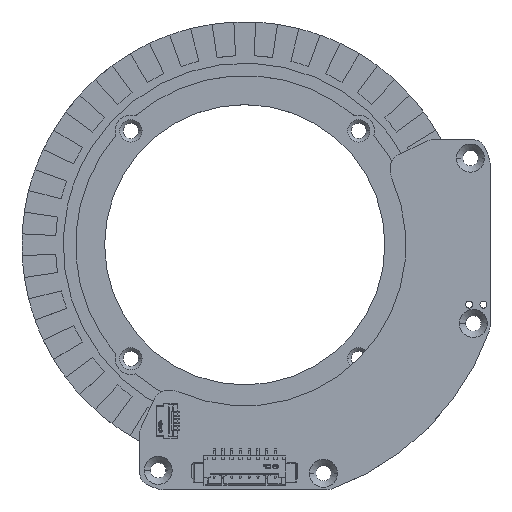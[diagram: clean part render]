
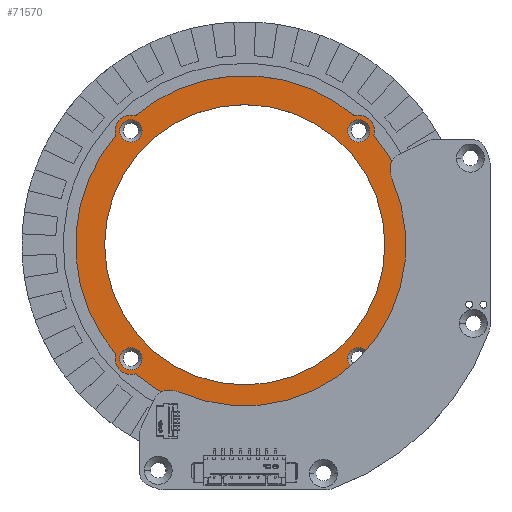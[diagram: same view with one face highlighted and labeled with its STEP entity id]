
A CAD part, top view. The second image highlights one B-rep face of the part: STEP entity #71570.
In plain terms, the highlighted planar face has unit normal (0, 0, 1) as drawn and (0, 1, 0) by its records, which use the part's own axes.
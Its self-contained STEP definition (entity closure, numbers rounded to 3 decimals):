
#67730=CARTESIAN_POINT('',(-16.263,1.2,-16.263));
#67731=DIRECTION('',(0.,1.,0.));
#67732=DIRECTION('',(1.,0.,0.));
#67733=AXIS2_PLACEMENT_3D('',#67730,#67731,#67732);
#67738=CARTESIAN_POINT('',(-16.263,1.2,-16.263));
#67739=DIRECTION('',(0.,1.,0.));
#67740=DIRECTION('',(-1.,0.,0.));
#67741=AXIS2_PLACEMENT_3D('',#67738,#67739,#67740);
#67746=CARTESIAN_POINT('',(16.263,1.2,-16.263));
#67747=DIRECTION('',(0.,1.,0.));
#67748=DIRECTION('',(-1.,0.,0.));
#67749=AXIS2_PLACEMENT_3D('',#67746,#67747,#67748);
#67754=CARTESIAN_POINT('',(16.263,1.2,-16.263));
#67755=DIRECTION('',(0.,1.,0.));
#67756=DIRECTION('',(1.,0.,0.));
#67757=AXIS2_PLACEMENT_3D('',#67754,#67755,#67756);
#67762=CARTESIAN_POINT('',(16.263,1.2,16.263));
#67763=DIRECTION('',(0.,1.,0.));
#67764=DIRECTION('',(-1.,0.,0.));
#67765=AXIS2_PLACEMENT_3D('',#67762,#67763,#67764);
#67770=CARTESIAN_POINT('',(16.263,1.2,16.263));
#67771=DIRECTION('',(0.,1.,0.));
#67772=DIRECTION('',(1.,0.,0.));
#67773=AXIS2_PLACEMENT_3D('',#67770,#67771,#67772);
#67778=CARTESIAN_POINT('',(0.,1.2,0.));
#67779=DIRECTION('',(0.,-1.,0.));
#67780=DIRECTION('',(1.,0.,0.));
#67781=AXIS2_PLACEMENT_3D('',#67778,#67779,#67780);
#67786=CARTESIAN_POINT('',(0.,1.2,0.));
#67787=DIRECTION('',(0.,-1.,0.));
#67788=DIRECTION('',(-1.,0.,0.));
#67789=AXIS2_PLACEMENT_3D('',#67786,#67787,#67788);
#68250=CARTESIAN_POINT('',(-16.263,1.2,16.263));
#68251=DIRECTION('',(0.,1.,0.));
#68252=DIRECTION('',(1.,0.,0.));
#68253=AXIS2_PLACEMENT_3D('',#68250,#68251,#68252);
#68258=CARTESIAN_POINT('',(-16.263,1.2,16.263));
#68259=DIRECTION('',(0.,1.,0.));
#68260=DIRECTION('',(-1.,0.,0.));
#68261=AXIS2_PLACEMENT_3D('',#68258,#68259,#68260);
#68266=CARTESIAN_POINT('',(0.,1.2,0.));
#68267=DIRECTION('',(0.,1.,0.));
#68268=DIRECTION('',(-0.763,0.,-0.647));
#68269=AXIS2_PLACEMENT_3D('',#68266,#68267,#68268);
#68310=CARTESIAN_POINT('',(0.,1.2,0.));
#68311=DIRECTION('',(0.,1.,0.));
#68312=DIRECTION('',(0.647,0.,-0.763));
#68313=AXIS2_PLACEMENT_3D('',#68310,#68311,#68312);
#68332=CARTESIAN_POINT('',(0.,1.2,0.));
#68333=DIRECTION('',(0.,1.,0.));
#68334=DIRECTION('',(0.763,0.,0.647));
#68335=AXIS2_PLACEMENT_3D('',#68332,#68333,#68334);
#68347=CARTESIAN_POINT('',(0.,1.2,0.));
#68348=DIRECTION('',(0.,1.,0.));
#68349=DIRECTION('',(-0.647,0.,0.763));
#68350=AXIS2_PLACEMENT_3D('',#68347,#68348,#68349);
#68370=CARTESIAN_POINT('',(-16.263,1.2,16.263));
#68371=DIRECTION('',(0.,1.,0.));
#68372=DIRECTION('',(-0.958,0.,-0.286));
#68373=AXIS2_PLACEMENT_3D('',#68370,#68371,#68372);
#68448=CARTESIAN_POINT('',(-16.263,1.2,-16.263));
#68449=DIRECTION('',(0.,1.,0.));
#68450=DIRECTION('',(0.286,0.,-0.958));
#68451=AXIS2_PLACEMENT_3D('',#68448,#68449,#68450);
#68456=CARTESIAN_POINT('',(16.263,1.2,16.263));
#68457=DIRECTION('',(0.,1.,0.));
#68458=DIRECTION('',(-0.286,0.,0.958));
#68459=AXIS2_PLACEMENT_3D('',#68456,#68457,#68458);
#68472=CARTESIAN_POINT('',(16.263,1.2,-16.263));
#68473=DIRECTION('',(0.,1.,0.));
#68474=DIRECTION('',(0.958,0.,0.286));
#68475=AXIS2_PLACEMENT_3D('',#68472,#68473,#68474);
#70724=CARTESIAN_POINT('',(20.005,1.2,0.));
#70725=CARTESIAN_POINT('',(-20.005,1.2,0.));
#70726=VERTEX_POINT('',#70724);
#70727=VERTEX_POINT('',#70725);
#71276=CARTESIAN_POINT('',(-14.663,1.2,
-16.263));
#71277=VERTEX_POINT('',#71276);
#71278=CARTESIAN_POINT('',(14.663,1.2,
-16.263));
#71279=VERTEX_POINT('',#71278);
#71280=CARTESIAN_POINT('',(14.663,1.2,16.263));
#71281=VERTEX_POINT('',#71280);
#71282=CARTESIAN_POINT('',(-14.663,1.2,
16.263));
#71283=VERTEX_POINT('',#71282);
#71292=CARTESIAN_POINT('',(-18.42,1.2,-15.62));
#71294=VERTEX_POINT('',#71292);
#71296=CARTESIAN_POINT('',(-15.62,1.2,-18.42));
#71298=VERTEX_POINT('',#71296);
#71300=CARTESIAN_POINT('',(18.42,1.2,-15.62));
#71302=VERTEX_POINT('',#71300);
#71304=CARTESIAN_POINT('',(15.62,1.2,-18.42));
#71306=VERTEX_POINT('',#71304);
#71308=CARTESIAN_POINT('',(-15.62,1.2,18.42));
#71310=VERTEX_POINT('',#71308);
#71312=CARTESIAN_POINT('',(-18.42,1.2,15.62));
#71314=VERTEX_POINT('',#71312);
#71316=CARTESIAN_POINT('',(15.62,1.2,18.42));
#71318=VERTEX_POINT('',#71316);
#71320=CARTESIAN_POINT('',(18.42,1.2,15.62));
#71322=VERTEX_POINT('',#71320);
#71324=CARTESIAN_POINT('',(-17.863,1.2,-16.263));
#71325=VERTEX_POINT('',#71324);
#71326=CARTESIAN_POINT('',(17.863,1.2,-16.263));
#71327=VERTEX_POINT('',#71326);
#71328=CARTESIAN_POINT('',(17.863,1.2,16.263));
#71329=VERTEX_POINT('',#71328);
#71330=CARTESIAN_POINT('',(-17.863,1.2,16.263));
#71331=VERTEX_POINT('',#71330);
#71517=CARTESIAN_POINT('',(0.,1.2,0.));
#71518=DIRECTION('',(0.,1.,0.));
#71519=DIRECTION('',(0.025,0.,-1.));
#71520=AXIS2_PLACEMENT_3D('',#71517,#71518,#71519);
#71521=PLANE('',#71520);
#71523=ORIENTED_EDGE('',*,*,#71522,.F.);
#71525=ORIENTED_EDGE('',*,*,#71524,.F.);
#71527=ORIENTED_EDGE('',*,*,#71526,.F.);
#71529=ORIENTED_EDGE('',*,*,#71528,.F.);
#71531=ORIENTED_EDGE('',*,*,#71530,.F.);
#71533=ORIENTED_EDGE('',*,*,#71532,.F.);
#71535=ORIENTED_EDGE('',*,*,#71534,.F.);
#71537=ORIENTED_EDGE('',*,*,#71536,.F.);
#71538=EDGE_LOOP('',(#71523,#71525,#71527,#71529,#71531,#71533,#71535,#71537));
#71539=FACE_OUTER_BOUND('',#71538,.F.);
#71541=ORIENTED_EDGE('',*,*,#71540,.T.);
#71543=ORIENTED_EDGE('',*,*,#71542,.T.);
#71544=EDGE_LOOP('',(#71541,#71543));
#71545=FACE_BOUND('',#71544,.F.);
#71547=ORIENTED_EDGE('',*,*,#71546,.T.);
#71549=ORIENTED_EDGE('',*,*,#71548,.T.);
#71550=EDGE_LOOP('',(#71547,#71549));
#71551=FACE_BOUND('',#71550,.F.);
#71553=ORIENTED_EDGE('',*,*,#71552,.T.);
#71555=ORIENTED_EDGE('',*,*,#71554,.T.);
#71556=EDGE_LOOP('',(#71553,#71555));
#71557=FACE_BOUND('',#71556,.F.);
#71559=ORIENTED_EDGE('',*,*,#71558,.F.);
#71561=ORIENTED_EDGE('',*,*,#71560,.F.);
#71562=EDGE_LOOP('',(#71559,#71561));
#71563=FACE_BOUND('',#71562,.F.);
#71565=ORIENTED_EDGE('',*,*,#71564,.T.);
#71567=ORIENTED_EDGE('',*,*,#71566,.T.);
#71568=EDGE_LOOP('',(#71565,#71567));
#71569=FACE_BOUND('',#71568,.F.);
#71570=ADVANCED_FACE('',(#71539,#71545,#71551,#71557,#71563,#71569),#71521,.T.);
#67734=CIRCLE('',#67733,1.6);
#67742=CIRCLE('',#67741,1.6);
#67750=CIRCLE('',#67749,1.6);
#67758=CIRCLE('',#67757,1.6);
#67766=CIRCLE('',#67765,1.6);
#67774=CIRCLE('',#67773,1.6);
#67782=CIRCLE('',#67781,20.005);
#67790=CIRCLE('',#67789,20.005);
#68254=CIRCLE('',#68253,1.6);
#68262=CIRCLE('',#68261,1.6);
#68270=CIRCLE('',#68269,24.151);
#68314=CIRCLE('',#68313,24.151);
#68336=CIRCLE('',#68335,24.151);
#68351=CIRCLE('',#68350,24.151);
#68374=CIRCLE('',#68373,2.25);
#68452=CIRCLE('',#68451,2.25);
#68460=CIRCLE('',#68459,2.25);
#68476=CIRCLE('',#68475,2.25);
#71522=EDGE_CURVE('',#71294,#71314,#68270,.T.);
#71524=EDGE_CURVE('',#71298,#71294,#68452,.T.);
#71526=EDGE_CURVE('',#71306,#71298,#68314,.T.);
#71528=EDGE_CURVE('',#71302,#71306,#68476,.T.);
#71530=EDGE_CURVE('',#71322,#71302,#68336,.T.);
#71532=EDGE_CURVE('',#71318,#71322,#68460,.T.);
#71534=EDGE_CURVE('',#71310,#71318,#68351,.T.);
#71536=EDGE_CURVE('',#71314,#71310,#68374,.T.);
#71540=EDGE_CURVE('',#71277,#71325,#67734,.T.);
#71542=EDGE_CURVE('',#71325,#71277,#67742,.T.);
#71546=EDGE_CURVE('',#71279,#71327,#67750,.T.);
#71548=EDGE_CURVE('',#71327,#71279,#67758,.T.);
#71552=EDGE_CURVE('',#71281,#71329,#67766,.T.);
#71554=EDGE_CURVE('',#71329,#71281,#67774,.T.);
#71558=EDGE_CURVE('',#70726,#70727,#67782,.T.);
#71560=EDGE_CURVE('',#70727,#70726,#67790,.T.);
#71564=EDGE_CURVE('',#71283,#71331,#68254,.T.);
#71566=EDGE_CURVE('',#71331,#71283,#68262,.T.);
